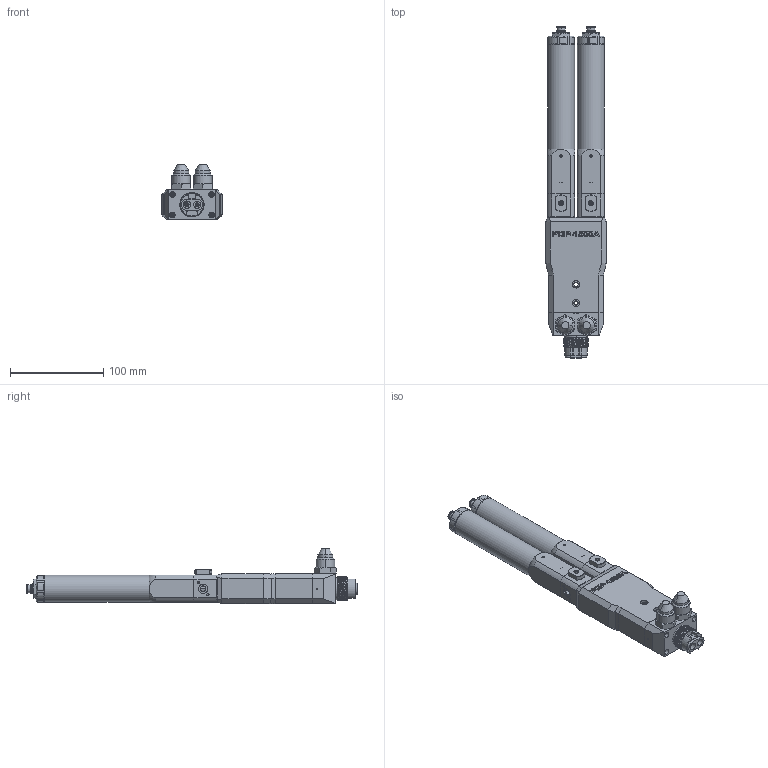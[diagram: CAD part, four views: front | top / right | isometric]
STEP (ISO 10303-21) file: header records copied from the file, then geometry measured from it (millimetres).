
FILE_DESCRIPTION (( 'STEP AP214' ), '1' );
FILE_NAME ('PDPM-1500-1000FA.STEP', '2024-10-11T12:35:06', ( '' ), ( '' ), 'SwSTEP 2.0', 'SolidWorks 2024', '' );
FILE_SCHEMA (( 'AUTOMOTIVE_DESIGN' ));
Length unit declared in the file: millimetre
Products named in the file (1): PDPM-1500-1000FA
Bounding box: 65 x 356 x 59.3 mm (x, y, z)
Volume: 531434.3 mm3; surface area: 127897.8 mm2
Topology: 12 solids, 12 shells, 1589 faces, 4043 edges, 2576 vertices
Faces by surface type: plane 768, cylinder 472, cone 307, bspline 22, torus 12, sphere 8
Full cylindrical faces by diameter (mm): 29 x2
Entity records: 60335 total; most frequent: CARTESIAN_POINT 22087, ORIENTED_EDGE 8010, DIRECTION 7846, EDGE_CURVE 4005, AXIS2_PLACEMENT_3D 2801, VERTEX_POINT 2576, VECTOR 2244, LINE 2244
